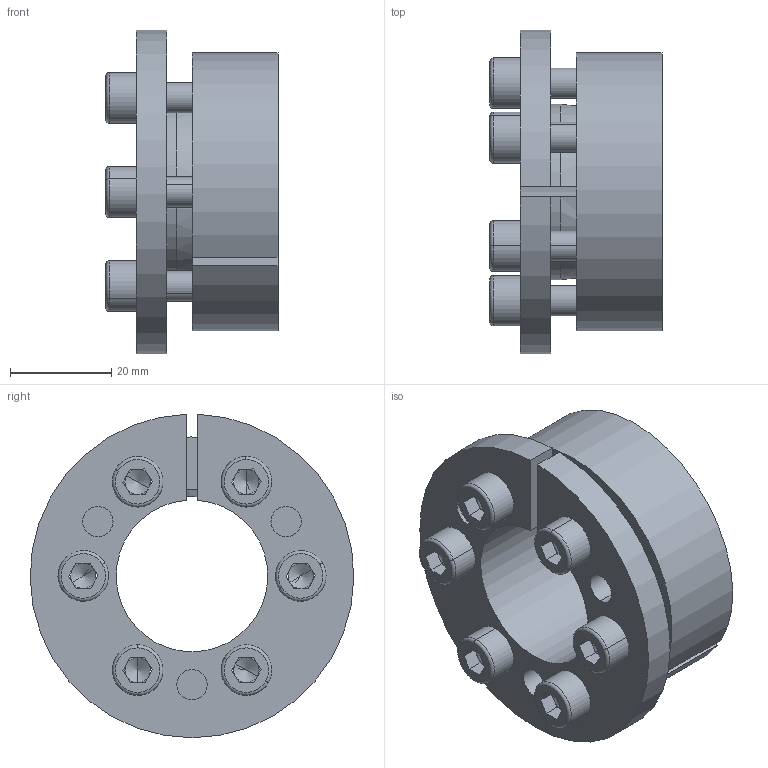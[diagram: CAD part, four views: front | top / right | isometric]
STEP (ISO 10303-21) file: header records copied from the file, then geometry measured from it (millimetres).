
FILE_DESCRIPTION (( 'STEP AP203' ), '1' );
FILE_NAME ('D3-30-55.STEP', '2017-10-12T06:00:09', ( 'MYCOM' ), ( '' ), 'SwSTEP 2.0', 'SolidWorks 2015', '' );
FILE_SCHEMA (( 'CONFIG_CONTROL_DESIGN' ));
Length unit declared in the file: millimetre
Products named in the file (1): D3-30-55
Bounding box: 34.01 x 63.99 x 63.98 mm (x, y, z)
Surface area: 24688.2 mm2 (no closed solid volume)
Topology: 0 solids, 14 shells, 164 faces, 426 edges, 258 vertices
Faces by surface type: plane 79, cylinder 59, cone 14, torus 12
Entity records: 5038 total; most frequent: DIRECTION 920, CARTESIAN_POINT 867, ORIENTED_EDGE 768, EDGE_CURVE 414, AXIS2_PLACEMENT_3D 345, VERTEX_POINT 258, VECTOR 230, LINE 230
